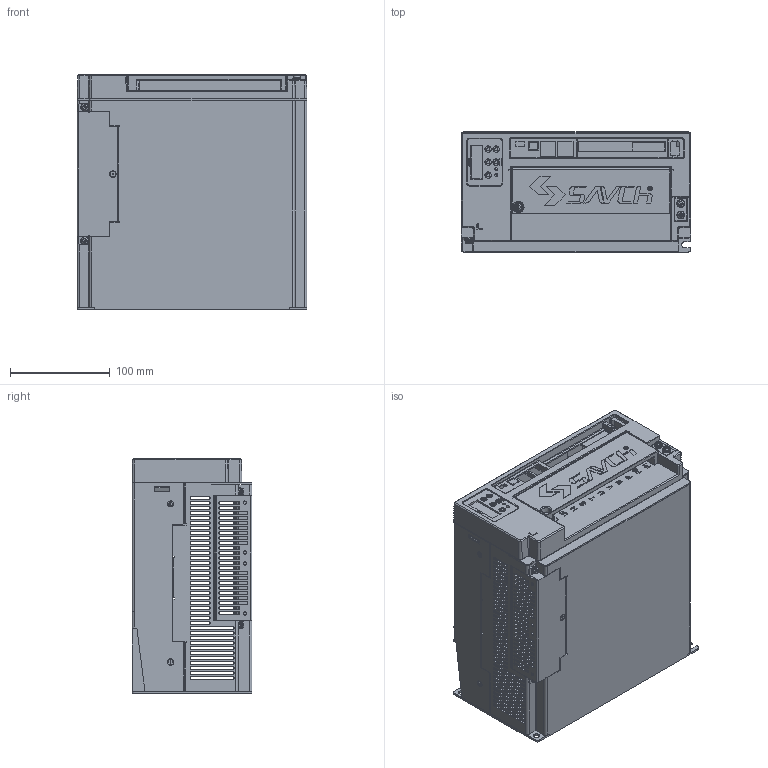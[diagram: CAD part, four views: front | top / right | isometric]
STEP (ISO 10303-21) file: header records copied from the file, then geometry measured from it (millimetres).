
FILE_DESCRIPTION((''),'2;1');
FILE_NAME('SDA2-E_ASM','2023-08-02T17:20:48',('ZhangJF'),(''),'CREO PARAMETRIC BY PTC INC, 2019010','CREO PARAMETRIC BY PTC INC, 2019010','');
FILE_SCHEMA(('CONFIG_CONTROL_DESIGN','SHAPE_APPEARANCE_LAYERS_GROUPS'));
Products named in the file (11): SANREQIZHIJIA; XIANSHIBAN; ZHUANGSHIGAI; SHANGGAI; SDA2-2015-9-16-OK_ASM; FENGSHANZHIJIA; 75-ZUOGAI; CEBAN; YUANTOULUOSI; PINGTOULUOSI; SDA2-E_ASM
Assembly tree (19 placements, depth 3):
  SDA2-E_ASM
    SDA2-2015-9-16-OK_ASM
      SANREQIZHIJIA
      XIANSHIBAN
      ZHUANGSHIGAI
      SHANGGAI
    FENGSHANZHIJIA
    75-ZUOGAI
    CEBAN
    YUANTOULUOSI  x5
    PINGTOULUOSI  x6
Bounding box: 230.06 x 120.03 x 235.5 mm (x, y, z)
Volume: 424341.3 mm3; surface area: 546485.1 mm2
Topology: 26 solids, 26 shells, 3813 faces, 10489 edges, 6831 vertices
Faces by surface type: plane 2295, cylinder 1114, cone 104, extrusion 98, torus 82, bspline 72, sphere 48
Entity records: 119222 total; most frequent: CARTESIAN_POINT 25878, ORIENTED_EDGE 19754, DIRECTION 18336, EDGE_CURVE 9877, VECTOR 7098, LINE 7000, VERTEX_POINT 6461, AXIS2_PLACEMENT_3D 5619
